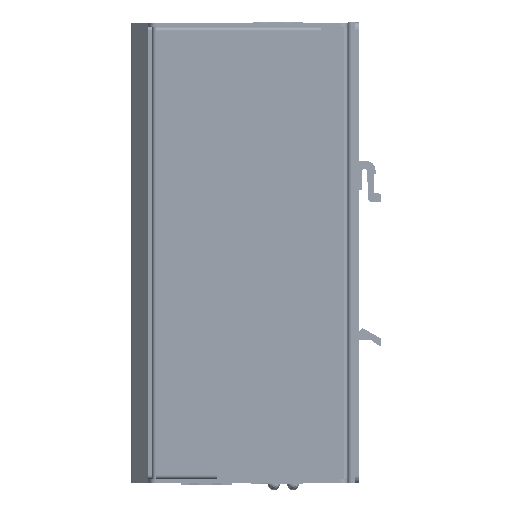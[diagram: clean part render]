
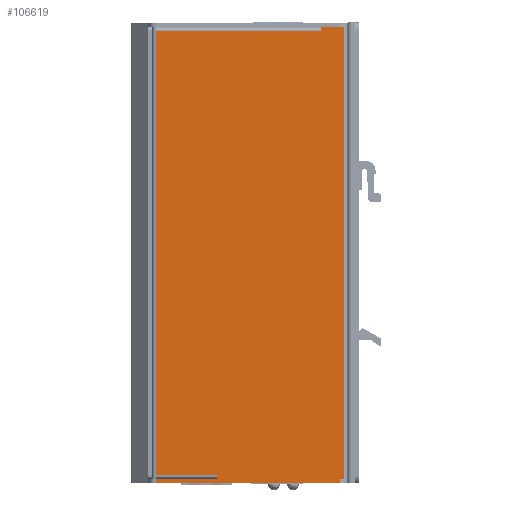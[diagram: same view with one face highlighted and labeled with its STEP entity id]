
A CAD part, left-side view. The second image highlights one B-rep face of the part: STEP entity #106619.
In plain terms, the highlighted planar face has unit normal (-1, 0, 0).
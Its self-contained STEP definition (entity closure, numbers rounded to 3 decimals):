
#6661=DIRECTION('',(0.,-1.,0.));
#6662=VECTOR('',#6661,15.9);
#6663=CARTESIAN_POINT('',(-55.435,54.9,-118.));
#6664=LINE('',#6663,#6662);
#7362=DIRECTION('',(0.,1.,0.));
#7363=VECTOR('',#7362,0.1);
#7364=CARTESIAN_POINT('',(-55.435,54.9,-0.1));
#7365=LINE('',#7364,#7363);
#7369=DIRECTION('',(0.,0.,1.));
#7370=VECTOR('',#7369,1.);
#7371=CARTESIAN_POINT('',(-55.435,54.9,
-1.1));
#7372=LINE('',#7371,#7370);
#7376=DIRECTION('',(0.,0.,-1.));
#7377=VECTOR('',#7376,1.);
#7378=CARTESIAN_POINT('',(-55.435,12.,
-0.1));
#7379=LINE('',#7378,#7377);
#7383=DIRECTION('',(0.,1.,0.));
#7384=VECTOR('',#7383,6.);
#7385=CARTESIAN_POINT('',(-55.435,6.,
-0.1));
#7386=LINE('',#7385,#7384);
#7390=DIRECTION('',(0.,0.,-1.));
#7391=VECTOR('',#7390,1.);
#7392=CARTESIAN_POINT('',(-55.435,39.,
-117.));
#7393=LINE('',#7392,#7391);
#7397=DIRECTION('',(0.,0.,1.));
#7398=VECTOR('',#7397,1.);
#7399=CARTESIAN_POINT('',(-55.435,54.9,-118.));
#7400=LINE('',#7399,#7398);
#7404=DIRECTION('',(0.,0.,1.));
#7405=VECTOR('',#7404,1.);
#7406=CARTESIAN_POINT('',(-55.435,55.,-119.));
#7407=LINE('',#7406,#7405);
#7935=DIRECTION('',(0.,1.,0.));
#7936=VECTOR('',#7935,48.);
#7937=CARTESIAN_POINT('',(-55.435,7.,-119.));
#7938=LINE('',#7937,#7936);
#35135=DIRECTION('',(0.,-1.,0.));
#35136=VECTOR('',#35135,42.9);
#35137=CARTESIAN_POINT('',(-55.435,54.9,
-1.1));
#35138=LINE('',#35137,#35136);
#35179=DIRECTION('',(0.,0.,1.));
#35180=VECTOR('',#35179,117.9);
#35181=CARTESIAN_POINT('',(-55.435,55.,-118.));
#35182=LINE('',#35181,#35180);
#35722=DIRECTION('',(0.,0.,-1.));
#35723=VECTOR('',#35722,117.9);
#35724=CARTESIAN_POINT('',(-55.435,6.,
-0.1));
#35725=LINE('',#35724,#35723);
#37307=DIRECTION('',(0.,1.,0.));
#37308=VECTOR('',#37307,1.);
#37309=CARTESIAN_POINT('',(-55.435,6.,-118.));
#37310=LINE('',#37309,#37308);
#37322=DIRECTION('',(0.,0.,-1.));
#37323=VECTOR('',#37322,1.);
#37324=CARTESIAN_POINT('',(-55.435,7.,-118.));
#37325=LINE('',#37324,#37323);
#75601=DIRECTION('',(0.,1.,0.));
#75602=VECTOR('',#75601,15.9);
#75603=CARTESIAN_POINT('',(-55.435,39.,
-117.));
#75604=LINE('',#75603,#75602);
#97338=CARTESIAN_POINT('',(-55.435,7.,-119.));
#97339=CARTESIAN_POINT('',(-55.435,55.,-119.));
#97340=VERTEX_POINT('',#97338);
#97341=VERTEX_POINT('',#97339);
#97772=CARTESIAN_POINT('',(-55.435,6.,
-0.1));
#97774=VERTEX_POINT('',#97772);
#97894=CARTESIAN_POINT('',(-55.435,12.,
-0.1));
#97895=VERTEX_POINT('',#97894);
#98004=CARTESIAN_POINT('',(-55.435,12.,
-1.1));
#98005=VERTEX_POINT('',#98004);
#98006=CARTESIAN_POINT('',(-55.435,6.,-118.));
#98007=VERTEX_POINT('',#98006);
#98080=CARTESIAN_POINT('',(-55.435,54.9,
-1.1));
#98081=VERTEX_POINT('',#98080);
#98138=CARTESIAN_POINT('',(-55.435,54.9,-0.1));
#98139=VERTEX_POINT('',#98138);
#98210=CARTESIAN_POINT('',(-55.435,55.,-0.1));
#98211=VERTEX_POINT('',#98210);
#98212=CARTESIAN_POINT('',(-55.435,39.,
-117.));
#98213=CARTESIAN_POINT('',(-55.435,54.9,
-117.));
#98214=VERTEX_POINT('',#98212);
#98215=VERTEX_POINT('',#98213);
#102574=CARTESIAN_POINT('',(-55.435,39.,-118.));
#102576=VERTEX_POINT('',#102574);
#102600=CARTESIAN_POINT('',(-55.435,54.9,-118.));
#102601=VERTEX_POINT('',#102600);
#102602=CARTESIAN_POINT('',(-55.435,55.,-118.));
#102603=VERTEX_POINT('',#102602);
#102626=CARTESIAN_POINT('',(-55.435,7.,-118.));
#102627=VERTEX_POINT('',#102626);
#106582=CARTESIAN_POINT('',(-55.435,31.,-118.5));
#106583=DIRECTION('',(-1.,0.,0.));
#106584=DIRECTION('',(0.,-1.,0.));
#106585=AXIS2_PLACEMENT_3D('',#106582,#106583,#106584);
#106586=PLANE('',#106585);
#106588=ORIENTED_EDGE('',*,*,#106587,.T.);
#106590=ORIENTED_EDGE('',*,*,#106589,.T.);
#106592=ORIENTED_EDGE('',*,*,#106591,.F.);
#106594=ORIENTED_EDGE('',*,*,#106593,.F.);
#106596=ORIENTED_EDGE('',*,*,#106595,.T.);
#106598=ORIENTED_EDGE('',*,*,#106597,.F.);
#106600=ORIENTED_EDGE('',*,*,#106599,.F.);
#106602=ORIENTED_EDGE('',*,*,#106601,.T.);
#106604=ORIENTED_EDGE('',*,*,#106603,.T.);
#106606=ORIENTED_EDGE('',*,*,#106605,.T.);
#106608=ORIENTED_EDGE('',*,*,#106607,.T.);
#106609=EDGE_LOOP('',(#106588,#106590,#106592,#106594,#106596,#106598,#106600,
#106602,#106604,#106606,#106608));
#106610=FACE_OUTER_BOUND('',#106609,.F.);
#106611=ORIENTED_EDGE('',*,*,#106258,.T.);
#106613=ORIENTED_EDGE('',*,*,#106612,.F.);
#106615=ORIENTED_EDGE('',*,*,#106614,.T.);
#106616=ORIENTED_EDGE('',*,*,#106575,.F.);
#106617=EDGE_LOOP('',(#106611,#106613,#106615,#106616));
#106618=FACE_BOUND('',#106617,.F.);
#106258=EDGE_CURVE('',#102601,#102576,#6664,.T.);
#106575=EDGE_CURVE('',#102601,#98215,#7400,.T.);
#106587=EDGE_CURVE('',#97341,#102603,#7407,.T.);
#106589=EDGE_CURVE('',#102603,#98211,#35182,.T.);
#106591=EDGE_CURVE('',#98139,#98211,#7365,.T.);
#106593=EDGE_CURVE('',#98081,#98139,#7372,.T.);
#106595=EDGE_CURVE('',#98081,#98005,#35138,.T.);
#106597=EDGE_CURVE('',#97895,#98005,#7379,.T.);
#106599=EDGE_CURVE('',#97774,#97895,#7386,.T.);
#106601=EDGE_CURVE('',#97774,#98007,#35725,.T.);
#106603=EDGE_CURVE('',#98007,#102627,#37310,.T.);
#106605=EDGE_CURVE('',#102627,#97340,#37325,.T.);
#106607=EDGE_CURVE('',#97340,#97341,#7938,.T.);
#106612=EDGE_CURVE('',#98214,#102576,#7393,.T.);
#106614=EDGE_CURVE('',#98214,#98215,#75604,.T.);
#106619=ADVANCED_FACE('',(#106610,#106618),#106586,.T.);
